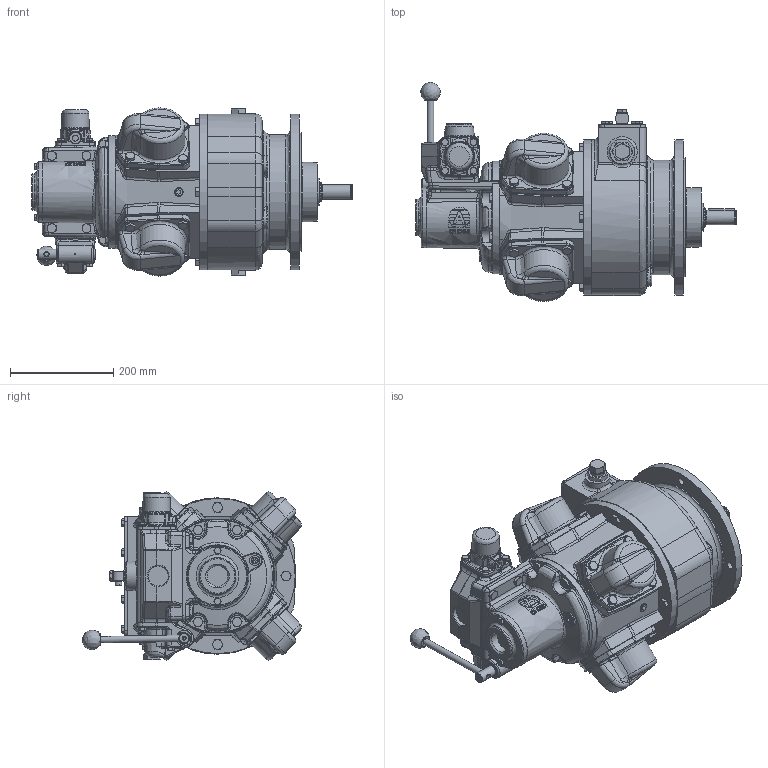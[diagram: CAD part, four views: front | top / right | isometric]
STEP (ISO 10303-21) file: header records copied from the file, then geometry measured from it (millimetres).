
FILE_DESCRIPTION (( 'STEP AP214' ), '1' );
FILE_NAME ('RM410+HCV410+RM410 Brake Defeature + Logo.STEP', '2023-05-17T13:51:39', ( '' ), ( '' ), 'SwSTEP 2.0', 'SolidWorks 2022', '' );
FILE_SCHEMA (( 'AUTOMOTIVE_DESIGN' ));
Length unit declared in the file: millimetre
Products named in the file (1): RM410+HCV410+RM410 Brake Defeature + Logo
Bounding box: 620.23 x 423.62 x 324.86 mm (x, y, z)
Volume: 28742395.5 mm3; surface area: 871848.7 mm2
Topology: 1 solids, 1 shells, 3076 faces, 7608 edges, 4644 vertices
Faces by surface type: plane 1325, bspline 1231, cylinder 520
Full cylindrical faces by diameter (mm): 2 x5, 3.1 x2, 3.15 x1, 6.5 x1, 6.8 x2, 8 x1, 10 x1, 11.445 x3, 11.7 x1, 12.453 x2, 12.7 x1, 13 x18, 13.157 x2, 14 x4, 17 x24, 18 x4, 19 x2, 19.5 x1, 20 x4, 20.57 x2, 21.5 x3, 23.7 x2, 26.35 x2, 28 x1, 30 x2, 38 x1, 39 x1, 39.5 x1, 39.6 x1, 48 x2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
Entity records: 185959 total; most frequent: CARTESIAN_POINT 89609, ORIENTED_EDGE 14672, DIRECTION 10314, EDGE_CURVE 7336, VERTEX_POINT 4574, AXIS2_PLACEMENT_3D 3818, EDGE_LOOP 3404, FACE_OUTER_BOUND 3198
